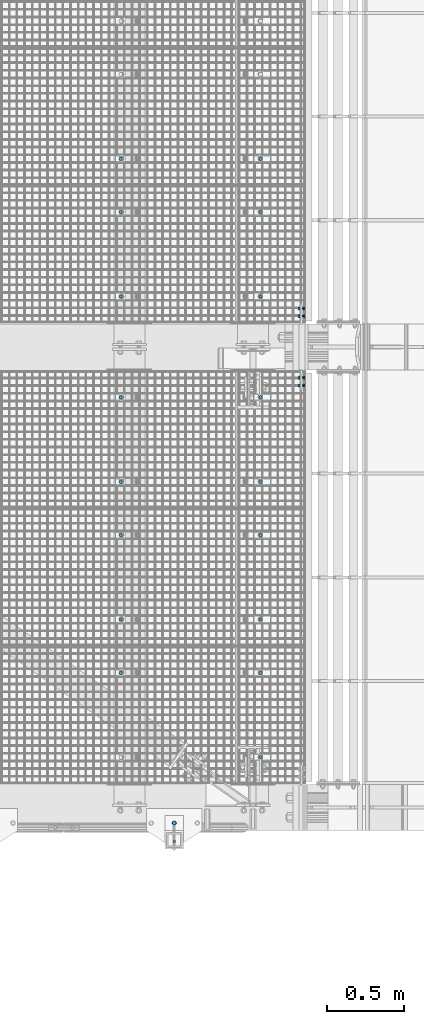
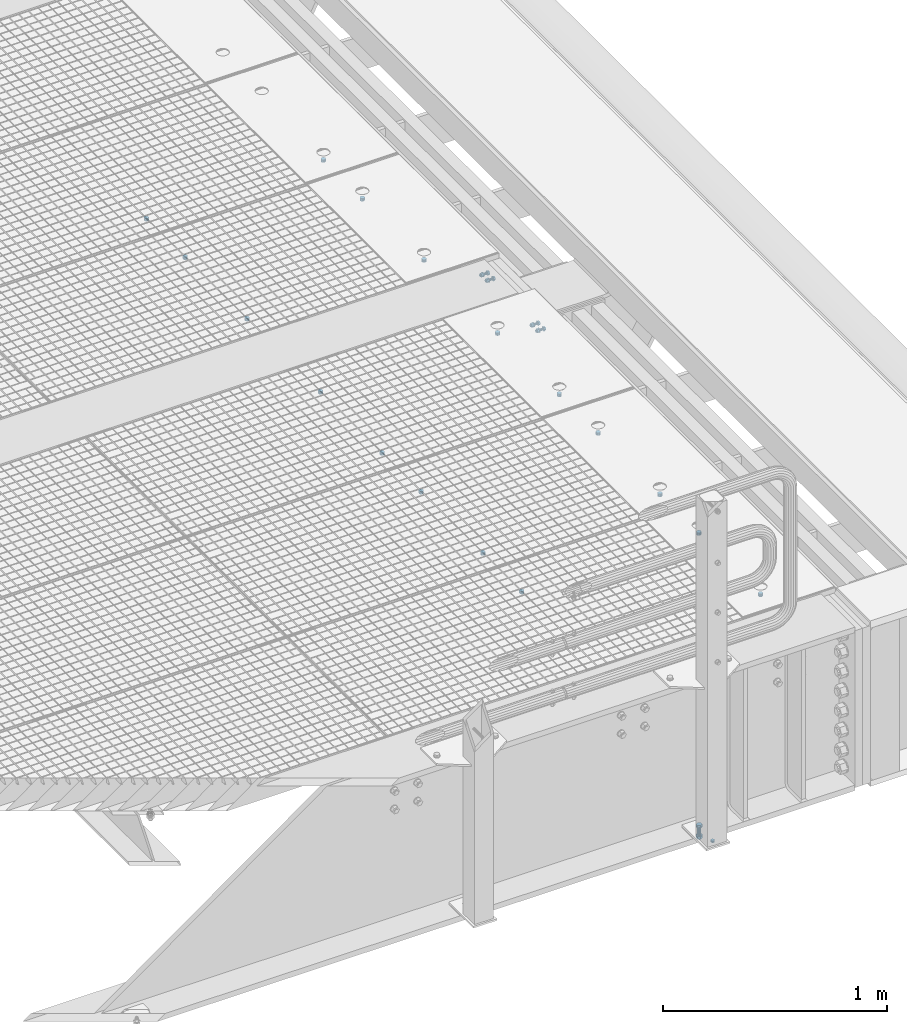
# One storey, part 104 of 1530: 21 mechanical fasteners.
"""IFC2X3 building model written with IfcOpenShell, lengths in millimetres."""

from ifc_helpers import new_model, si_unit, frame, origin_with_axes, place, context, subcontext, project, spatial, faceted_brep, source, transform, mapped, material, type_object, element, save


model = new_model("IFC2X3")

# Units and contexts
model_context = context("Model", 3, precision=1e-05, world=origin_with_axes())
body_context = subcontext(model_context, "Body", "Model", "MODEL_VIEW")
ifc_project = project(units=[si_unit("LENGTHUNIT", "METRE", prefix="MILLI"), si_unit("AREAUNIT", "SQUARE_METRE"), si_unit("VOLUMEUNIT", "CUBIC_METRE"), si_unit("MASSUNIT", "GRAM", prefix="KILO"), si_unit("TIMEUNIT", "SECOND"), si_unit("PLANEANGLEUNIT", "RADIAN"), si_unit("SOLIDANGLEUNIT", "STERADIAN"), si_unit("THERMODYNAMICTEMPERATUREUNIT", "DEGREE_CELSIUS"), si_unit("LUMINOUSINTENSITYUNIT", "LUMEN")], contexts=[model_context])

# Site, building, storey
site_placement = place(None, origin_with_axes())
site = spatial("IfcSite", under=ifc_project, at=site_placement, Name="Brattvåg", CompositionType="ELEMENT")
building_placement = place(site_placement, origin_with_axes())
building = spatial("IfcBuilding", under=site, at=building_placement, Name="Undefined", CompositionType="ELEMENT")
storey_placement = place(building_placement, origin_with_axes())
storey = spatial("IfcBuildingStorey", under=building, at=storey_placement, Name="Undefined", CompositionType="ELEMENT", Elevation=0.0)

# Mechanical fasteners
ifc_material = material(Name="8")
mechanical_fastener_type = type_object("IfcMechanicalFastenerType", Name="Bolt assembly")
shared_shape_1 = source(origin_with_axes(), body_context, "Body", "Brep", [
    faceted_brep([(10.3923048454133, -9.99999999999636, 0.0), (5.19615242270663, -9.99999999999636, 9.0), (-5.19615242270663, -9.99999999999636, 9.0), (-10.3923048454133, -9.99999999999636, 1.27269028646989e-15), (-5.19615242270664, -9.99999999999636, -9.0), (5.19615242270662, -9.99999999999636, -9.0), (5.19615242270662, -2.49999999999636, -9.0), (-5.19615242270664, -2.49999999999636, -9.0), (-10.3923048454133, -2.49999999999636, 1.27269028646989e-15), (-5.19615242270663, -2.49999999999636, 9.0), (5.19615242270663, -2.49999999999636, 9.0), (10.3923048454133, -2.49999999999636, 0.0), (6.0, -2.49999999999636, 0.0), (5.19615242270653, -2.49999999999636, 3.00000000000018), (2.99999999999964, -2.49999999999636, 5.19615242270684), (-6.21801588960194e-13, -2.49999999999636, 6.0), (-3.00000000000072, -2.49999999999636, 5.19615242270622), (-5.19615242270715, -2.49999999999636, 2.9999999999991), (-6.0, -2.49999999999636, -1.24360317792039e-12), (-5.19615242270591, -2.49999999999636, -3.00000000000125), (-2.99999999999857, -2.49999999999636, -5.19615242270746), (1.85874342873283e-12, -2.49999999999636, -6.0), (3.00000000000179, -2.49999999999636, -5.1961524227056), (5.19615242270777, -2.49999999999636, -2.99999999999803), (5.19615242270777, 37.5000000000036, -2.99999999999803), (3.00000000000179, 37.5000000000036, -5.1961524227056), (1.85874342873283e-12, 37.5000000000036, -6.0), (-2.99999999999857, 37.5000000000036, -5.19615242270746), (-5.19615242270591, 37.5000000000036, -3.00000000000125), (-6.0, 37.5000000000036, -1.24360317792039e-12), (-5.19615242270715, 37.5000000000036, 2.9999999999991), (-3.00000000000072, 37.5000000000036, 5.19615242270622), (-6.21801588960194e-13, 37.5000000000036, 6.0), (2.99999999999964, 37.5000000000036, 5.19615242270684), (5.19615242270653, 37.5000000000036, 3.00000000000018), (6.0, 37.5000000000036, 0.0), (12.0, -2.49999999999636, 0.0), (10.3923048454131, -2.49999999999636, 6.00000000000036), (5.99999999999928, -2.49999999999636, 10.3923048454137), (-1.24360317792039e-12, -2.49999999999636, 12.0), (-6.00000000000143, -2.49999999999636, 10.3923048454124), (-10.3923048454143, -2.49999999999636, 5.99999999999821), (-12.0, -2.49999999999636, -2.48720635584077e-12), (-10.3923048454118, -2.49999999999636, -6.00000000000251), (-5.99999999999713, -2.49999999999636, -10.3923048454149), (3.71748685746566e-12, -2.49999999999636, -12.0), (6.00000000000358, -2.49999999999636, -10.3923048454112), (10.3923048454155, -2.49999999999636, -5.99999999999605), (10.3923048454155, 3.63797880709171e-12, -5.99999999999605), (6.00000000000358, 3.63797880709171e-12, -10.3923048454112), (3.71748685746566e-12, 3.63797880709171e-12, -12.0), (-5.99999999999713, 3.63797880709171e-12, -10.3923048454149), (-10.3923048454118, 3.63797880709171e-12, -6.00000000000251), (-12.0, 3.63797880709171e-12, -2.48720635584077e-12), (-10.3923048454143, 3.63797880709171e-12, 5.99999999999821), (-6.00000000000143, 3.63797880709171e-12, 10.3923048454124), (-1.24360317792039e-12, 3.63797880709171e-12, 12.0), (5.99999999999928, 3.63797880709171e-12, 10.3923048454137), (10.3923048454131, 3.63797880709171e-12, 6.00000000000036), (12.0, 3.63797880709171e-12, 0.0), (12.0, 19.9943847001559, 0.0), (10.3923048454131, 19.9943847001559, 6.00000000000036), (5.99999999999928, 19.9943847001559, 10.3923048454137), (-1.24360317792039e-12, 19.9943847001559, 12.0), (-6.00000000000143, 19.9943847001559, 10.3923048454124), (-10.3923048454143, 19.9943847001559, 5.99999999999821), (-12.0, 19.9943847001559, -2.48720635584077e-12), (-10.3923048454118, 19.9943847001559, -6.00000000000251), (-5.99999999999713, 19.9943847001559, -10.3923048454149), (3.71748685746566e-12, 19.9943847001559, -12.0), (6.00000000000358, 19.9943847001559, -10.3923048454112), (10.3923048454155, 19.9943847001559, -5.99999999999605), (10.3923048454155, 22.4943847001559, -5.99999999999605), (6.00000000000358, 22.4943847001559, -10.3923048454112), (3.71748685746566e-12, 22.4943847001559, -12.0), (-5.99999999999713, 22.4943847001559, -10.3923048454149), (-10.3923048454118, 22.4943847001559, -6.00000000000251), (-12.0, 22.4943847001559, -2.48720635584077e-12), (-10.3923048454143, 22.4943847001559, 5.99999999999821), (-6.00000000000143, 22.4943847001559, 10.3923048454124), (-1.24360317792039e-12, 22.4943847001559, 12.0), (5.99999999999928, 22.4943847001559, 10.3923048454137), (10.3923048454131, 22.4943847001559, 6.00000000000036), (12.0, 22.4943847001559, 0.0), (10.3923048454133, 22.4943847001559, 0.0), (5.19615242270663, 22.4943847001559, 9.0), (-5.19615242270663, 22.4943847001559, 9.0), (-10.3923048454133, 22.4943847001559, 1.27269028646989e-15), (-5.19615242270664, 22.4943847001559, -9.0), (5.19615242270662, 22.4943847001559, -9.0), (5.19615242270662, 33.2943848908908, -9.0), (-5.19615242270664, 33.2943848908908, -9.0), (-10.3923048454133, 33.2943848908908, 1.27269028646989e-15), (-5.19615242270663, 33.2943848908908, 9.0), (5.19615242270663, 33.2943848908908, 9.0), (10.3923048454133, 33.2943848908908, 0.0)], [[[0, 1, 2, 3, 4, 5]], [[6, 7, 8, 9, 10, 11]], [[0, 11, 10, 1]], [[1, 10, 9, 2]], [[2, 9, 8, 3]], [[3, 8, 7, 4]], [[4, 7, 6, 5]], [[5, 6, 11, 0]], [[12, 13, 14, 15, 16, 17, 18, 19, 20, 21, 22, 23]], [[24, 25, 26, 27, 28, 29, 30, 31, 32, 33, 34, 35]], [[12, 35, 34, 13]], [[13, 34, 33, 14]], [[14, 33, 32, 15]], [[15, 32, 31, 16]], [[16, 31, 30, 17]], [[17, 30, 29, 18]], [[18, 29, 28, 19]], [[19, 28, 27, 20]], [[20, 27, 26, 21]], [[21, 26, 25, 22]], [[22, 25, 24, 23]], [[23, 24, 35, 12]], [[36, 37, 38, 39, 40, 41, 42, 43, 44, 45, 46, 47]], [[48, 49, 50, 51, 52, 53, 54, 55, 56, 57, 58, 59]], [[36, 59, 58, 37]], [[37, 58, 57, 38]], [[38, 57, 56, 39]], [[39, 56, 55, 40]], [[40, 55, 54, 41]], [[41, 54, 53, 42]], [[42, 53, 52, 43]], [[43, 52, 51, 44]], [[44, 51, 50, 45]], [[45, 50, 49, 46]], [[46, 49, 48, 47]], [[47, 48, 59, 36]], [[60, 61, 62, 63, 64, 65, 66, 67, 68, 69, 70, 71]], [[72, 73, 74, 75, 76, 77, 78, 79, 80, 81, 82, 83]], [[60, 83, 82, 61]], [[61, 82, 81, 62]], [[62, 81, 80, 63]], [[63, 80, 79, 64]], [[64, 79, 78, 65]], [[65, 78, 77, 66]], [[66, 77, 76, 67]], [[67, 76, 75, 68]], [[68, 75, 74, 69]], [[69, 74, 73, 70]], [[70, 73, 72, 71]], [[71, 72, 83, 60]], [[84, 85, 86, 87, 88, 89]], [[90, 91, 92, 93, 94, 95]], [[84, 95, 94, 85]], [[85, 94, 93, 86]], [[86, 93, 92, 87]], [[87, 92, 91, 88]], [[88, 91, 90, 89]], [[89, 90, 95, 84]]]),
    faceted_brep([(6.5, 0.100000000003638, 0.0), (5.62916512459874, 0.100000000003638, 3.25000000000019), (3.24999999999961, 0.100000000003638, 5.62916512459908), (-6.7361838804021e-13, 0.100000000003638, 6.5), (-3.25000000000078, 0.100000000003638, 5.6291651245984), (-5.62916512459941, 0.100000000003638, 3.24999999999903), (-6.5, 0.100000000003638, -1.34723677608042e-12), (-5.62916512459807, 0.100000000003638, -3.25000000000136), (-3.24999999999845, 0.100000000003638, -5.62916512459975), (2.01363871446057e-12, 0.100000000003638, -6.5), (3.25000000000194, 0.100000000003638, -5.62916512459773), (5.62916512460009, 0.100000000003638, -3.24999999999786), (5.62916512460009, 10.1000000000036, -3.24999999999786), (3.25000000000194, 10.1000000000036, -5.62916512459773), (2.01363871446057e-12, 10.1000000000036, -6.5), (-3.24999999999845, 10.1000000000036, -5.62916512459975), (-5.62916512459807, 10.1000000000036, -3.25000000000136), (-6.5, 10.1000000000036, -1.34723677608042e-12), (-5.62916512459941, 10.1000000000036, 3.24999999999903), (-3.25000000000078, 10.1000000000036, 5.6291651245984), (-6.7361838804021e-13, 10.1000000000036, 6.5), (3.24999999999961, 10.1000000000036, 5.62916512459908), (5.62916512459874, 10.1000000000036, 3.25000000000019), (6.5, 10.1000000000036, 0.0), (6.5, 9.89438470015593, 0.0), (5.62916512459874, 9.89438470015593, 3.25000000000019), (3.24999999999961, 9.89438470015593, 5.62916512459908), (-6.7361838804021e-13, 9.89438470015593, 6.5), (-3.25000000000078, 9.89438470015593, 5.6291651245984), (-5.62916512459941, 9.89438470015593, 3.24999999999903), (-6.5, 9.89438470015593, -1.34723677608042e-12), (-5.62916512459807, 9.89438470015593, -3.25000000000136), (-3.24999999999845, 9.89438470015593, -5.62916512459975), (2.01363871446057e-12, 9.89438470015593, -6.5), (3.25000000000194, 9.89438470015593, -5.62916512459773), (5.62916512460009, 9.89438470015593, -3.24999999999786), (5.62916512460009, 19.9943847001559, -3.24999999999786), (3.25000000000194, 19.9943847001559, -5.62916512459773), (2.01363871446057e-12, 19.9943847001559, -6.5), (-3.24999999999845, 19.9943847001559, -5.62916512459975), (-5.62916512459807, 19.9943847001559, -3.25000000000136), (-6.5, 19.9943847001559, -1.34723677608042e-12), (-5.62916512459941, 19.9943847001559, 3.24999999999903), (-3.25000000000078, 19.9943847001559, 5.6291651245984), (-6.7361838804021e-13, 19.9943847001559, 6.5), (3.24999999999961, 19.9943847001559, 5.62916512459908), (5.62916512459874, 19.9943847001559, 3.25000000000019), (6.5, 19.9943847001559, 0.0)], [[[0, 1, 2, 3, 4, 5, 6, 7, 8, 9, 10, 11]], [[12, 13, 14, 15, 16, 17, 18, 19, 20, 21, 22, 23]], [[0, 23, 22, 1]], [[1, 22, 21, 2]], [[2, 21, 20, 3]], [[3, 20, 19, 4]], [[4, 19, 18, 5]], [[5, 18, 17, 6]], [[6, 17, 16, 7]], [[7, 16, 15, 8]], [[8, 15, 14, 9]], [[9, 14, 13, 10]], [[10, 13, 12, 11]], [[11, 12, 23, 0]], [[24, 25, 26, 27, 28, 29, 30, 31, 32, 33, 34, 35]], [[36, 37, 38, 39, 40, 41, 42, 43, 44, 45, 46, 47]], [[24, 47, 46, 25]], [[25, 46, 45, 26]], [[26, 45, 44, 27]], [[27, 44, 43, 28]], [[28, 43, 42, 29]], [[29, 42, 41, 30]], [[30, 41, 40, 31]], [[31, 40, 39, 32]], [[32, 39, 38, 33]], [[33, 38, 37, 34]], [[34, 37, 36, 35]], [[35, 36, 47, 24]]]),
])
for number, where, z_axis, x_axis, name in (
    (1, (16886.9983721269, 3199.9999046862, -160.000094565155), (0.0, 0.0, 1.0), (0.0, 1.0, 0.0), "Bolt assembly"),
    (2, (16886.9983721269, 2800.0000953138, -160.000094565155), (0.0, 0.0, -1.0), (0.0, -1.0, 0.0), "Bolt assembly"),
):
    element("IfcMechanicalFastener", number, at=place(storey_placement, frame(where, z_axis=z_axis, x_axis=x_axis)), inside=storey, type_object=mechanical_fastener_type, material=ifc_material, Name=name, NominalDiameter=12.0, NominalLength=40.0, context=body_context, shape_type="MappedRepresentation", body=[
        mapped(shared_shape_1, transform((0.0, 0.0, 0.0))),
        mapped(shared_shape_1, transform((50.0, 0.0, 0.0))),
    ])
shared_shape_2 = source(origin_with_axes(), body_context, "Body", "Brep", [
    faceted_brep([(11.0, -4.99999999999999, 0.0), (9.52627944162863, -4.99999999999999, 5.50000000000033), (5.49999999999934, -4.99999999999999, 9.5262794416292), (-1.13996957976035e-12, -4.99999999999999, 11.0), (-5.50000000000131, -4.99999999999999, 9.52627944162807), (-9.52627944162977, -4.99999999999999, 5.49999999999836), (-11.0, -4.99999999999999, -2.27993915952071e-12), (-9.5262794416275, -4.99999999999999, -5.5000000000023), (-5.49999999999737, -4.99999999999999, -9.52627944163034), (3.40769628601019e-12, -4.99999999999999, -11.0), (5.50000000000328, -4.99999999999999, -9.52627944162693), (9.52627944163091, -4.99999999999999, -5.49999999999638), (9.52627944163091, 10.1, -5.49999999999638), (5.50000000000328, 10.1, -9.52627944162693), (3.40769628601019e-12, 10.1, -11.0), (-5.49999999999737, 10.1, -9.52627944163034), (-9.5262794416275, 10.1, -5.5000000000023), (-11.0, 10.1, -2.27993915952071e-12), (-9.52627944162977, 10.1, 5.49999999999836), (-5.50000000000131, 10.1, 9.52627944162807), (-1.13996957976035e-12, 10.1, 11.0), (5.49999999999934, 10.1, 9.5262794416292), (9.52627944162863, 10.1, 5.50000000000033), (11.0, 10.1, 0.0)], [[[0, 1, 2, 3, 4, 5, 6, 7, 8, 9, 10, 11]], [[12, 13, 14, 15, 16, 17, 18, 19, 20, 21, 22, 23]], [[0, 23, 22, 1]], [[1, 22, 21, 2]], [[2, 21, 20, 3]], [[3, 20, 19, 4]], [[4, 19, 18, 5]], [[5, 18, 17, 6]], [[6, 17, 16, 7]], [[7, 16, 15, 8]], [[8, 15, 14, 9]], [[9, 14, 13, 10]], [[10, 13, 12, 11]], [[11, 12, 23, 0]]]),
])
for number, where, z_axis, x_axis, name in (
    (3, (16607.7533454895, 4225.00118255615, -35.0), (0.0, -1.0, 0.0), (-1.0, 1.99999855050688e-09, 0.0), "Bolt assembly"),
    (4, (16607.7533454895, 3328.00118255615, -35.0), (0.0, -1.0, 0.0), (-1.0, 1.99999855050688e-09, 0.0), "Bolt assembly"),
    (5, (16607.7533454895, 2122.00118255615, -35.0), (0.0, -1.0, 0.0), (-1.0, 1.99999855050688e-09, 0.0), "Bolt assembly"),
    (6, (16607.7533454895, 1225.00118255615, -35.0), (0.0, -1.0, 0.0), (-1.0, 1.99999855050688e-09, 0.0), "Bolt assembly"),
    (7, (15696.2016601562, 4224.99964141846, -35.0), (0.0, -1.0, 0.0), (-1.0, 1.99999855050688e-09, 0.0), "Bolt assembly"),
    (8, (16607.7520294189, 3877.99983215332, -35.0), (0.0, -1.0, 0.0), (-1.0, 1.99999855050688e-09, 0.0), "Bolt assembly"),
    (9, (15696.2016601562, 3877.998878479, -35.0), (0.0, -1.0, 0.0), (-1.0, 1.99999855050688e-09, 0.0), "Bolt assembly"),
    (10, (15696.2016601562, 3327.99964141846, -35.0), (0.0, -1.0, 0.0), (-1.0, 1.99999855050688e-09, 0.0), "Bolt assembly"),
    (11, (16607.7520294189, 2671.99983215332, -35.0), (0.0, -1.0, 0.0), (-1.0, 1.99999855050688e-09, 0.0), "Bolt assembly"),
    (12, (15696.2016601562, 2671.998878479, -35.0), (0.0, -1.0, 0.0), (-1.0, 1.99999855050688e-09, 0.0), "Bolt assembly"),
    (13, (15696.2016601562, 2121.99964141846, -35.0), (0.0, -1.0, 0.0), (-1.0, 1.99999855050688e-09, 0.0), "Bolt assembly"),
    (14, (16607.7520294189, 1774.99983215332, -35.0), (0.0, -1.0, 0.0), (-1.0, 1.99999855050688e-09, 0.0), "Bolt assembly"),
    (15, (15696.2016601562, 1774.998878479, -35.0), (0.0, -1.0, 0.0), (-1.0, 1.99999855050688e-09, 0.0), "Bolt assembly"),
    (16, (15696.2016601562, 1224.99964141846, -35.0), (0.0, -1.0, 0.0), (-1.0, 1.99999855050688e-09, 0.0), "Bolt assembly"),
    (17, (16607.7533454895, 328.001182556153, -35.0), (0.0, -1.0, 0.0), (-1.0, 1.99999855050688e-09, 0.0), "Bolt assembly"),
    (18, (16607.7520294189, 877.999832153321, -35.0), (0.0, -1.0, 0.0), (-1.0, 1.99999855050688e-09, 0.0), "Bolt assembly"),
    (19, (15696.2016601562, 877.998878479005, -35.0), (0.0, -1.0, 0.0), (-1.0, 1.99999855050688e-09, 0.0), "Bolt assembly"),
):
    element("IfcMechanicalFastener", number, at=place(storey_placement, frame(where, z_axis=z_axis, x_axis=x_axis)), inside=storey, type_object=mechanical_fastener_type, material=ifc_material, Name=name, NominalDiameter=20.0, NominalLength=15.0, context=body_context, shape_type="MappedRepresentation", body=[
        mapped(shared_shape_2, transform((0.0, 0.0, 0.0))),
    ])
shared_shape_3 = source(origin_with_axes(), body_context, "Body", "Brep", [
    faceted_brep([(9.0, -0.000108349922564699, 0.0), (7.79422863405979, -0.000108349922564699, 4.50000000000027), (4.49999999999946, -0.000108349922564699, 7.79422863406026), (-9.3270238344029e-13, -0.000108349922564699, 9.0), (-4.50000000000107, -0.000108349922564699, 7.79422863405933), (-7.79422863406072, -0.000108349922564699, 4.49999999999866), (-9.0, -0.000108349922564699, -1.86540476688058e-12), (-7.79422863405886, -0.000108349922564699, -4.50000000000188), (-4.49999999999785, -0.000108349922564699, -7.79422863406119), (2.78811514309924e-12, -0.000108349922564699, -9.0), (4.50000000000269, -0.000108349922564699, -7.7942286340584), (7.79422863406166, -0.000108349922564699, -4.49999999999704), (7.79422863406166, 10.0998916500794, -4.49999999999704), (4.50000000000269, 10.0998916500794, -7.7942286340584), (2.78811514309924e-12, 10.0998916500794, -9.0), (-4.49999999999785, 10.0998916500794, -7.79422863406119), (-7.79422863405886, 10.0998916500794, -4.50000000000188), (-9.0, 10.0998916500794, -1.86540476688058e-12), (-7.79422863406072, 10.0998916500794, 4.49999999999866), (-4.50000000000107, 10.0998916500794, 7.79422863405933), (-9.3270238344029e-13, 10.0998916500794, 9.0), (4.49999999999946, 10.0998916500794, 7.79422863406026), (7.79422863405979, 10.0998916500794, 4.50000000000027), (9.0, 10.0998916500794, 0.0)], [[[0, 1, 2, 3, 4, 5, 6, 7, 8, 9, 10, 11]], [[12, 13, 14, 15, 16, 17, 18, 19, 20, 21, 22, 23]], [[0, 23, 22, 1]], [[1, 22, 21, 2]], [[2, 21, 20, 3]], [[3, 20, 19, 4]], [[4, 19, 18, 5]], [[5, 18, 17, 6]], [[6, 17, 16, 7]], [[7, 16, 15, 8]], [[8, 15, 14, 9]], [[9, 14, 13, 10]], [[10, 13, 12, 11]], [[11, 12, 23, 0]]]),
])
mechanical_fastener_1_placement = place(storey_placement, frame((16045.0001602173, -219.999950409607, -845.000278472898), z_axis=(-1.0, 1.99999855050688e-09, 0.0), x_axis=(0.0, 0.999999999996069, 2.80400000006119e-06)))
element("IfcMechanicalFastener", 20, at=mechanical_fastener_1_placement, inside=storey, type_object=mechanical_fastener_type, material=ifc_material, Name="Bolt assembly", NominalDiameter=16.0, NominalLength=10.0001087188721, context=body_context, shape_type="MappedRepresentation", body=[
    mapped(shared_shape_3, transform((0.0, 0.0, 0.0))),
])
shared_shape_4 = source(origin_with_axes(), body_context, "Body", "Brep", [
    faceted_brep([(13.856406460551, -12.9998916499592, 0.0), (6.92820323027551, -12.9998916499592, 12.0), (-6.92820323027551, -12.9998916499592, 12.0), (-13.856406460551, -12.9998916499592, 1.69692038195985e-15), (-6.92820323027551, -12.9998916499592, -12.0), (6.9282032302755, -12.9998916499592, -12.0), (6.9282032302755, -2.99989164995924, -12.0), (-6.92820323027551, -2.99989164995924, -12.0), (-13.856406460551, -2.99989164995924, 1.69692038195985e-15), (-6.92820323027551, -2.99989164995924, 12.0), (6.92820323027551, -2.99989164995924, 12.0), (13.856406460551, -2.99989164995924, 0.0), (8.0, -2.99989164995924, 0.0), (6.92820323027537, -2.99989164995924, 4.00000000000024), (3.99999999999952, -2.99989164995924, 6.92820323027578), (-8.29068785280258e-13, -2.99989164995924, 8.0), (-4.00000000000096, -2.99989164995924, 6.92820323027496), (-6.9282032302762, -2.99989164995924, 3.99999999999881), (-8.0, -2.99989164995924, -1.65813757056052e-12), (-6.92820323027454, -2.99989164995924, -4.00000000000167), (-3.99999999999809, -2.99989164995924, -6.92820323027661), (2.47832457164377e-12, -2.99989164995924, -8.0), (4.00000000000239, -2.99989164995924, -6.92820323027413), (6.92820323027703, -2.99989164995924, -3.99999999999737), (6.92820323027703, 67.0001083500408, -3.99999999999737), (4.00000000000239, 67.0001083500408, -6.92820323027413), (2.47832457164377e-12, 67.0001083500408, -8.0), (-3.99999999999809, 67.0001083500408, -6.92820323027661), (-6.92820323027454, 67.0001083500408, -4.00000000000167), (-8.0, 67.0001083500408, -1.65813757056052e-12), (-6.9282032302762, 67.0001083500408, 3.99999999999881), (-4.00000000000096, 67.0001083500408, 6.92820323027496), (-8.29068785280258e-13, 67.0001083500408, 8.0), (3.99999999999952, 67.0001083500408, 6.92820323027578), (6.92820323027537, 67.0001083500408, 4.00000000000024), (8.0, 67.0001083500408, 0.0), (15.0, -2.99989164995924, 0.0), (12.9903810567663, -2.99989164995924, 7.50000000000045), (7.4999999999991, -2.99989164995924, 12.9903810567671), (-1.55450397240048e-12, -2.99989164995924, 15.0), (-7.50000000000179, -2.99989164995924, 12.9903810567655), (-12.9903810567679, -2.99989164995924, 7.49999999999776), (-15.0, -2.99989164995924, -3.10900794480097e-12), (-12.9903810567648, -2.99989164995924, -7.50000000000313), (-7.49999999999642, -2.99989164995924, -12.9903810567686), (4.64685857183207e-12, -2.99989164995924, -15.0), (7.50000000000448, -2.99989164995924, -12.990381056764), (12.9903810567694, -2.99989164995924, -7.49999999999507), (12.9903810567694, 0.000108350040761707, -7.49999999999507), (7.50000000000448, 0.000108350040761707, -12.990381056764), (4.64685857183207e-12, 0.000108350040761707, -15.0), (-7.49999999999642, 0.000108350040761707, -12.9903810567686), (-12.9903810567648, 0.000108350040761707, -7.50000000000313), (-15.0, 0.000108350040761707, -3.10900794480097e-12), (-12.9903810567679, 0.000108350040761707, 7.49999999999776), (-7.50000000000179, 0.000108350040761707, 12.9903810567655), (-1.55450397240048e-12, 0.000108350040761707, 15.0), (7.4999999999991, 0.000108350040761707, 12.9903810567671), (12.9903810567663, 0.000108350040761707, 7.50000000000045), (15.0, 0.000108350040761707, 0.0), (15.0, 45.0001982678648, 0.0), (12.9903810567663, 45.0001982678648, 7.50000000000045), (7.4999999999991, 45.0001982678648, 12.9903810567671), (-1.55450397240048e-12, 45.0001982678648, 15.0), (-7.50000000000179, 45.0001982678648, 12.9903810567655), (-12.9903810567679, 45.0001982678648, 7.49999999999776), (-15.0, 45.0001982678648, -3.10900794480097e-12), (-12.9903810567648, 45.0001982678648, -7.50000000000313), (-7.49999999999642, 45.0001982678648, -12.9903810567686), (4.64685857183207e-12, 45.0001982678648, -15.0), (7.50000000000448, 45.0001982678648, -12.990381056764), (12.9903810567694, 45.0001982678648, -7.49999999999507), (12.9903810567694, 48.0001982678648, -7.49999999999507), (7.50000000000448, 48.0001982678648, -12.990381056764), (4.64685857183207e-12, 48.0001982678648, -15.0), (-7.49999999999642, 48.0001982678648, -12.9903810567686), (-12.9903810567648, 48.0001982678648, -7.50000000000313), (-15.0, 48.0001982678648, -3.10900794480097e-12), (-12.9903810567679, 48.0001982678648, 7.49999999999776), (-7.50000000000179, 48.0001982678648, 12.9903810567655), (-1.55450397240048e-12, 48.0001982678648, 15.0), (7.4999999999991, 48.0001982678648, 12.9903810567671), (12.9903810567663, 48.0001982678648, 7.50000000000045), (15.0, 48.0001982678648, 0.0), (13.856406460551, 48.0001982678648, 0.0), (6.92820323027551, 48.0001982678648, 12.0), (-6.92820323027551, 48.0001982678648, 12.0), (-13.856406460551, 48.0001982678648, 1.69692038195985e-15), (-6.92820323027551, 48.0001982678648, -12.0), (6.9282032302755, 48.0001982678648, -12.0), (6.9282032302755, 62.8001984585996, -12.0), (-6.92820323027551, 62.8001984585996, -12.0), (-13.856406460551, 62.8001984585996, 1.69692038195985e-15), (-6.92820323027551, 62.8001984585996, 12.0), (6.92820323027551, 62.8001984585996, 12.0), (13.856406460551, 62.8001984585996, 0.0)], [[[0, 1, 2, 3, 4, 5]], [[6, 7, 8, 9, 10, 11]], [[0, 11, 10, 1]], [[1, 10, 9, 2]], [[2, 9, 8, 3]], [[3, 8, 7, 4]], [[4, 7, 6, 5]], [[5, 6, 11, 0]], [[12, 13, 14, 15, 16, 17, 18, 19, 20, 21, 22, 23]], [[24, 25, 26, 27, 28, 29, 30, 31, 32, 33, 34, 35]], [[12, 35, 34, 13]], [[13, 34, 33, 14]], [[14, 33, 32, 15]], [[15, 32, 31, 16]], [[16, 31, 30, 17]], [[17, 30, 29, 18]], [[18, 29, 28, 19]], [[19, 28, 27, 20]], [[20, 27, 26, 21]], [[21, 26, 25, 22]], [[22, 25, 24, 23]], [[23, 24, 35, 12]], [[36, 37, 38, 39, 40, 41, 42, 43, 44, 45, 46, 47]], [[48, 49, 50, 51, 52, 53, 54, 55, 56, 57, 58, 59]], [[36, 59, 58, 37]], [[37, 58, 57, 38]], [[38, 57, 56, 39]], [[39, 56, 55, 40]], [[40, 55, 54, 41]], [[41, 54, 53, 42]], [[42, 53, 52, 43]], [[43, 52, 51, 44]], [[44, 51, 50, 45]], [[45, 50, 49, 46]], [[46, 49, 48, 47]], [[47, 48, 59, 36]], [[60, 61, 62, 63, 64, 65, 66, 67, 68, 69, 70, 71]], [[72, 73, 74, 75, 76, 77, 78, 79, 80, 81, 82, 83]], [[60, 83, 82, 61]], [[61, 82, 81, 62]], [[62, 81, 80, 63]], [[63, 80, 79, 64]], [[64, 79, 78, 65]], [[65, 78, 77, 66]], [[66, 77, 76, 67]], [[67, 76, 75, 68]], [[68, 75, 74, 69]], [[69, 74, 73, 70]], [[70, 73, 72, 71]], [[71, 72, 83, 60]], [[84, 85, 86, 87, 88, 89]], [[90, 91, 92, 93, 94, 95]], [[84, 95, 94, 85]], [[85, 94, 93, 86]], [[86, 93, 92, 87]], [[87, 92, 91, 88]], [[88, 91, 90, 89]], [[89, 90, 95, 84]]]),
    faceted_brep([(9.0, 0.100108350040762, 0.0), (7.79422863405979, 0.100108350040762, 4.50000000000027), (4.49999999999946, 0.100108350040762, 7.79422863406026), (-9.3270238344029e-13, 0.100108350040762, 9.0), (-4.50000000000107, 0.100108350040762, 7.79422863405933), (-7.79422863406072, 0.100108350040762, 4.49999999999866), (-9.0, 0.100108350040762, -1.86540476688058e-12), (-7.79422863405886, 0.100108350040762, -4.50000000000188), (-4.49999999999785, 0.100108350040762, -7.79422863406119), (2.78811514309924e-12, 0.100108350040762, -9.0), (4.50000000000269, 0.100108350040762, -7.7942286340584), (7.79422863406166, 0.100108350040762, -4.49999999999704), (7.79422863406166, 10.10010835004, -4.49999999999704), (4.50000000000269, 10.10010835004, -7.7942286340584), (2.78811514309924e-12, 10.10010835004, -9.0), (-4.49999999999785, 10.10010835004, -7.79422863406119), (-7.79422863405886, 10.10010835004, -4.50000000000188), (-9.0, 10.10010835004, -1.86540476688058e-12), (-7.79422863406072, 10.10010835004, 4.49999999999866), (-4.50000000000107, 10.10010835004, 7.79422863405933), (-9.3270238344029e-13, 10.10010835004, 9.0), (4.49999999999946, 10.10010835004, 7.79422863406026), (7.79422863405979, 10.10010835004, 4.50000000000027), (9.0, 10.10010835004, 0.0), (9.0, 10.0002383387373, 0.0), (7.79422863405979, 10.0002383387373, 4.50000000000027), (4.49999999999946, 10.0002383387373, 7.79422863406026), (-9.3270238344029e-13, 10.0002383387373, 9.0), (-4.50000000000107, 10.0002383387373, 7.79422863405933), (-7.79422863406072, 10.0002383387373, 4.49999999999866), (-9.0, 10.0002383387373, -1.86540476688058e-12), (-7.79422863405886, 10.0002383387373, -4.50000000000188), (-4.49999999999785, 10.0002383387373, -7.79422863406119), (2.78811514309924e-12, 10.0002383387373, -9.0), (4.50000000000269, 10.0002383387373, -7.7942286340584), (7.79422863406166, 10.0002383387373, -4.49999999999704), (7.79422863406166, 15.000238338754, -4.49999999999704), (4.50000000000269, 15.000238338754, -7.7942286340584), (2.78811514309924e-12, 15.000238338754, -9.0), (-4.49999999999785, 15.000238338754, -7.79422863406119), (-7.79422863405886, 15.000238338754, -4.50000000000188), (-9.0, 15.000238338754, -1.86540476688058e-12), (-7.79422863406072, 15.000238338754, 4.49999999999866), (-4.50000000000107, 15.000238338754, 7.79422863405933), (-9.3270238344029e-13, 15.000238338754, 9.0), (4.49999999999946, 15.000238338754, 7.79422863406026), (7.79422863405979, 15.000238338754, 4.50000000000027), (9.0, 15.000238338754, 0.0), (9.0, 14.9001982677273, 0.0), (7.79422863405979, 14.9001982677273, 4.50000000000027), (4.49999999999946, 14.9001982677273, 7.79422863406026), (-9.3270238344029e-13, 14.9001982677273, 9.0), (-4.50000000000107, 14.9001982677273, 7.79422863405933), (-7.79422863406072, 14.9001982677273, 4.49999999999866), (-9.0, 14.9001982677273, -1.86540476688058e-12), (-7.79422863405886, 14.9001982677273, -4.50000000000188), (-4.49999999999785, 14.9001982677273, -7.79422863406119), (2.78811514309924e-12, 14.9001982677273, -9.0), (4.50000000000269, 14.9001982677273, -7.7942286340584), (7.79422863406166, 14.9001982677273, -4.49999999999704), (7.79422863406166, 45.0001982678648, -4.49999999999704), (4.50000000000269, 45.0001982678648, -7.7942286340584), (2.78811514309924e-12, 45.0001982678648, -9.0), (-4.49999999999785, 45.0001982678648, -7.79422863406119), (-7.79422863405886, 45.0001982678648, -4.50000000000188), (-9.0, 45.0001982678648, -1.86540476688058e-12), (-7.79422863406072, 45.0001982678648, 4.49999999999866), (-4.50000000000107, 45.0001982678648, 7.79422863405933), (-9.3270238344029e-13, 45.0001982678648, 9.0), (4.49999999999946, 45.0001982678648, 7.79422863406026), (7.79422863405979, 45.0001982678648, 4.50000000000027), (9.0, 45.0001982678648, 0.0)], [[[0, 1, 2, 3, 4, 5, 6, 7, 8, 9, 10, 11]], [[12, 13, 14, 15, 16, 17, 18, 19, 20, 21, 22, 23]], [[0, 23, 22, 1]], [[1, 22, 21, 2]], [[2, 21, 20, 3]], [[3, 20, 19, 4]], [[4, 19, 18, 5]], [[5, 18, 17, 6]], [[6, 17, 16, 7]], [[7, 16, 15, 8]], [[8, 15, 14, 9]], [[9, 14, 13, 10]], [[10, 13, 12, 11]], [[11, 12, 23, 0]], [[24, 25, 26, 27, 28, 29, 30, 31, 32, 33, 34, 35]], [[36, 37, 38, 39, 40, 41, 42, 43, 44, 45, 46, 47]], [[24, 47, 46, 25]], [[25, 46, 45, 26]], [[26, 45, 44, 27]], [[27, 44, 43, 28]], [[28, 43, 42, 29]], [[29, 42, 41, 30]], [[30, 41, 40, 31]], [[31, 40, 39, 32]], [[32, 39, 38, 33]], [[33, 38, 37, 34]], [[34, 37, 36, 35]], [[35, 36, 47, 24]], [[48, 49, 50, 51, 52, 53, 54, 55, 56, 57, 58, 59]], [[60, 61, 62, 63, 64, 65, 66, 67, 68, 69, 70, 71]], [[48, 71, 70, 49]], [[49, 70, 69, 50]], [[50, 69, 68, 51]], [[51, 68, 67, 52]], [[52, 67, 66, 53]], [[53, 66, 65, 54]], [[54, 65, 64, 55]], [[55, 64, 63, 56]], [[56, 63, 62, 57]], [[57, 62, 61, 58]], [[58, 61, 60, 59]], [[59, 60, 71, 48]]]),
])
mechanical_fastener_2_placement = place(storey_placement, frame((16045.0001602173, -99.9996833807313, -844.999801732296), z_axis=(1.0, 0.0, 0.0), x_axis=(0.0, -0.999999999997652, -2.16700000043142e-06)))
element("IfcMechanicalFastener", 21, at=mechanical_fastener_2_placement, inside=storey, type_object=mechanical_fastener_type, material=ifc_material, Name="Bolt assembly", NominalDiameter=16.0, NominalLength=70.0, context=body_context, shape_type="MappedRepresentation", body=[
    mapped(shared_shape_4, transform((0.0, 0.0, 0.0))),
])

save(model, "model.ifc")
